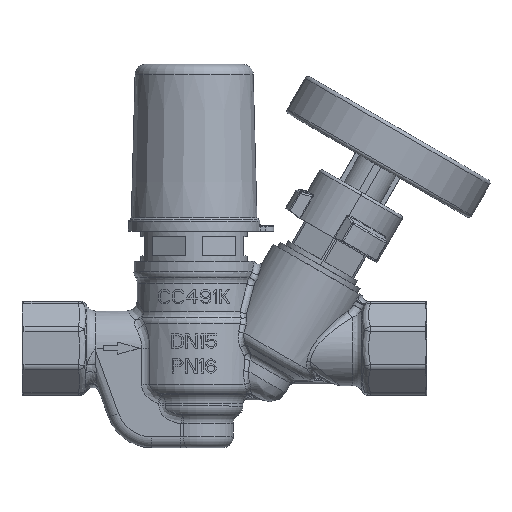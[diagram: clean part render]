
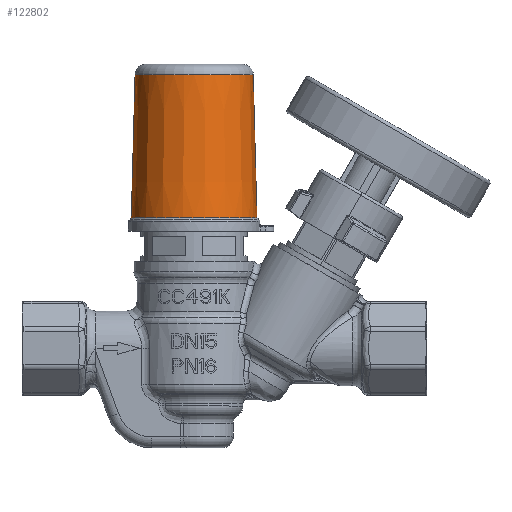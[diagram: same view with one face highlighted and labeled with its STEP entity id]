
A CAD part, top view. The second image highlights one B-rep face of the part: STEP entity #122802.
In plain terms, the highlighted conical face has half-angle 1.5 degrees and reference radius 17.174 mm.
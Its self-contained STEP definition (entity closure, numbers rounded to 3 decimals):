
#121415=DIRECTION('',(-0.026,1.,0.));
#121416=VECTOR('',#121415,40.335);
#121417=CARTESIAN_POINT('',(17.702,3.758,0.));
#121418=LINE('',#121417,#121416);
#121424=DIRECTION('',(0.026,1.,0.));
#121425=VECTOR('',#121424,40.335);
#121426=CARTESIAN_POINT('',(-17.702,3.758,0.));
#121427=LINE('',#121426,#121425);
#121456=CARTESIAN_POINT('',(0.,3.758,0.));
#121457=DIRECTION('',(0.,-1.,0.));
#121458=DIRECTION('',(1.,0.,0.));
#121459=AXIS2_PLACEMENT_3D('',#121456,#121457,#121458);
#121461=CARTESIAN_POINT('',(0.,44.079,0.));
#121462=DIRECTION('',(0.,1.,0.));
#121463=DIRECTION('',(-1.,0.,0.));
#121464=AXIS2_PLACEMENT_3D('',#121461,#121462,#121463);
#122467=CARTESIAN_POINT('',(-16.646,44.079,0.));
#122468=CARTESIAN_POINT('',(16.646,44.079,0.));
#122469=VERTEX_POINT('',#122467);
#122470=VERTEX_POINT('',#122468);
#122657=CARTESIAN_POINT('',(17.702,3.758,0.));
#122658=CARTESIAN_POINT('',(-17.702,3.758,0.));
#122659=VERTEX_POINT('',#122657);
#122660=VERTEX_POINT('',#122658);
#122791=CARTESIAN_POINT('',(0.,23.918,0.));
#122792=DIRECTION('',(0.,-1.,0.));
#122793=DIRECTION('',(-1.,0.,0.));
#122794=AXIS2_PLACEMENT_3D('',#122791,#122792,#122793);
#122795=CONICAL_SURFACE('',#122794,17.174,1.5);
#122796=ORIENTED_EDGE('',*,*,#122785,.T.);
#122797=ORIENTED_EDGE('',*,*,#122729,.T.);
#122798=ORIENTED_EDGE('',*,*,#122699,.T.);
#122799=ORIENTED_EDGE('',*,*,#122726,.F.);
#122800=EDGE_LOOP('',(#122796,#122797,#122798,#122799));
#122801=FACE_OUTER_BOUND('',#122800,.F.);
#122802=ADVANCED_FACE('',(#122801),#122795,.T.);
#121460=CIRCLE('',#121459,17.702);
#121465=CIRCLE('',#121464,16.646);
#122699=EDGE_CURVE('',#122469,#122470,#121465,.T.);
#122726=EDGE_CURVE('',#122659,#122470,#121418,.T.);
#122729=EDGE_CURVE('',#122660,#122469,#121427,.T.);
#122785=EDGE_CURVE('',#122659,#122660,#121460,.T.);
